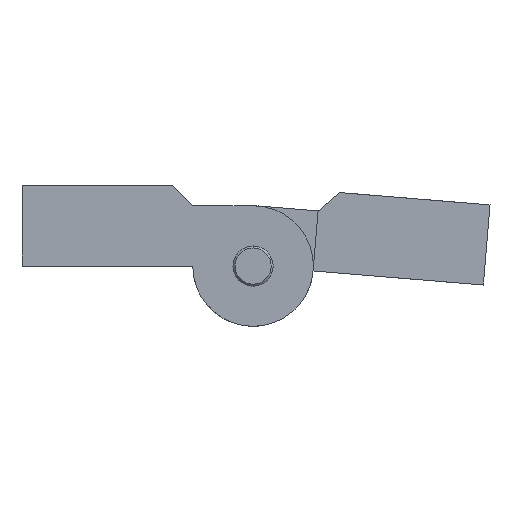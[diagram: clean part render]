
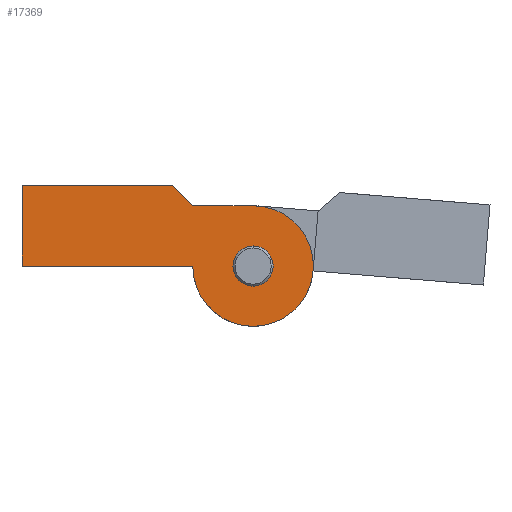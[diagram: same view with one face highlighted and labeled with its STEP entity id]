
A CAD part, front view. The second image highlights one B-rep face of the part: STEP entity #17369.
In plain terms, the highlighted planar face has unit normal (0, -1, 0).
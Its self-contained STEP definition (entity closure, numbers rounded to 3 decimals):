
#100 = DIRECTION ( 'NONE',  ( 0., 1., 0. ) ) ;
#311 = EDGE_LOOP ( 'NONE', ( #27034, #25543, #1429, #6005, #13994, #7374, #33645 ) ) ;
#563 = DIRECTION ( 'NONE',  ( 0., 1., 0. ) ) ;
#678 = VERTEX_POINT ( 'NONE', #5207 ) ;
#1429 = ORIENTED_EDGE ( 'NONE', *, *, #33772, .F. ) ;
#1987 = CARTESIAN_POINT ( 'NONE',  ( -11.5, 0., 0. ) ) ;
#3493 = CARTESIAN_POINT ( 'NONE',  ( 0., 0., 3. ) ) ;
#3612 = DIRECTION ( 'NONE',  ( -1., 0., 0. ) ) ;
#4680 = CARTESIAN_POINT ( 'NONE',  ( 0., 0., 1. ) ) ;
#4803 = DIRECTION ( 'NONE',  ( -1., 0., 0. ) ) ;
#4970 = EDGE_CURVE ( 'NONE', #15293, #31078, #15086, .T. ) ;
#5189 = DIRECTION ( 'NONE',  ( 1., 0., 0. ) ) ;
#5207 = CARTESIAN_POINT ( 'NONE',  ( 0., 0., -3. ) ) ;
#5719 = AXIS2_PLACEMENT_3D ( 'NONE', #26030, #12958, #18384 ) ;
#6005 = ORIENTED_EDGE ( 'NONE', *, *, #8729, .F. ) ;
#6045 = CIRCLE ( 'NONE', #27400, 1. ) ;
#7374 = ORIENTED_EDGE ( 'NONE', *, *, #9307, .F. ) ;
#7498 = LINE ( 'NONE', #32033, #24716 ) ;
#8353 = CARTESIAN_POINT ( 'NONE',  ( -3., 0., 3. ) ) ;
#8729 = EDGE_CURVE ( 'NONE', #26565, #29946, #7498, .T. ) ;
#8844 = VECTOR ( 'NONE', #5189, 1000. ) ;
#9273 = CARTESIAN_POINT ( 'NONE',  ( 0., 0., 0. ) ) ;
#9307 = EDGE_CURVE ( 'NONE', #678, #20363, #34392, .T. ) ;
#9415 = DIRECTION ( 'NONE',  ( 0., 0., 1. ) ) ;
#12185 = VECTOR ( 'NONE', #3612, 1000. ) ;
#12290 = EDGE_CURVE ( 'NONE', #14000, #18303, #19250, .T. ) ;
#12958 = DIRECTION ( 'NONE',  ( 0., 1., 0. ) ) ;
#13994 = ORIENTED_EDGE ( 'NONE', *, *, #15257, .F. ) ;
#14000 = VERTEX_POINT ( 'NONE', #24127 ) ;
#14117 = CARTESIAN_POINT ( 'NONE',  ( 0., 0., -1. ) ) ;
#14783 = LINE ( 'NONE', #1987, #36435 ) ;
#15086 = CIRCLE ( 'NONE', #17799, 1. ) ;
#15209 = PLANE ( 'NONE',  #19072 ) ;
#15257 = EDGE_CURVE ( 'NONE', #20363, #26565, #14783, .T. ) ;
#15293 = VERTEX_POINT ( 'NONE', #4680 ) ;
#15563 = CARTESIAN_POINT ( 'NONE',  ( -3., 0., 0. ) ) ;
#15811 = CARTESIAN_POINT ( 'NONE',  ( -11.5, 0., 0. ) ) ;
#16307 = CARTESIAN_POINT ( 'NONE',  ( 0., 0., 0. ) ) ;
#16680 = CARTESIAN_POINT ( 'NONE',  ( -11.5, 0., 4. ) ) ;
#17055 = CARTESIAN_POINT ( 'NONE',  ( 0., 0., 0. ) ) ;
#17369 = ADVANCED_FACE ( 'NONE', ( #21787, #23967 ), #15209, .F. ) ;
#17799 = AXIS2_PLACEMENT_3D ( 'NONE', #17055, #100, #19775 ) ;
#18303 = VERTEX_POINT ( 'NONE', #8353 ) ;
#18384 = DIRECTION ( 'NONE',  ( 0., 0., 1. ) ) ;
#19072 = AXIS2_PLACEMENT_3D ( 'NONE', #34957, #26303, #9415 ) ;
#19141 = DIRECTION ( 'NONE',  ( 0., 1., 0. ) ) ;
#19250 = LINE ( 'NONE', #3493, #12185 ) ;
#19264 = DIRECTION ( 'NONE',  ( 0., 0., 1. ) ) ;
#19775 = DIRECTION ( 'NONE',  ( 0., 0., 1. ) ) ;
#20244 = EDGE_LOOP ( 'NONE', ( #33295, #28767 ) ) ;
#20363 = VERTEX_POINT ( 'NONE', #15563 ) ;
#20445 = DIRECTION ( 'NONE',  ( 0., 0., 1. ) ) ;
#20968 = CARTESIAN_POINT ( 'NONE',  ( -4., 0., 4. ) ) ;
#21787 = FACE_BOUND ( 'NONE', #20244, .T. ) ;
#22112 = CARTESIAN_POINT ( 'NONE',  ( -3., 0., 3. ) ) ;
#23967 = FACE_OUTER_BOUND ( 'NONE', #311, .T. ) ;
#24127 = CARTESIAN_POINT ( 'NONE',  ( 0., 0., 3. ) ) ;
#24716 = VECTOR ( 'NONE', #20445, 1000. ) ;
#24742 = VERTEX_POINT ( 'NONE', #20968 ) ;
#25543 = ORIENTED_EDGE ( 'NONE', *, *, #29901, .T. ) ;
#25794 = AXIS2_PLACEMENT_3D ( 'NONE', #16307, #19141, #19264 ) ;
#26030 = CARTESIAN_POINT ( 'NONE',  ( 0., 0., 0. ) ) ;
#26303 = DIRECTION ( 'NONE',  ( 0., 1., 0. ) ) ;
#26565 = VERTEX_POINT ( 'NONE', #15811 ) ;
#26830 = EDGE_CURVE ( 'NONE', #14000, #678, #34412, .T. ) ;
#27034 = ORIENTED_EDGE ( 'NONE', *, *, #12290, .T. ) ;
#27400 = AXIS2_PLACEMENT_3D ( 'NONE', #9273, #563, #34575 ) ;
#28016 = CARTESIAN_POINT ( 'NONE',  ( 0., 0., 4. ) ) ;
#28042 = DIRECTION ( 'NONE',  ( -0.707, 0., 0.707 ) ) ;
#28767 = ORIENTED_EDGE ( 'NONE', *, *, #4970, .T. ) ;
#29901 = EDGE_CURVE ( 'NONE', #18303, #24742, #31221, .T. ) ;
#29946 = VERTEX_POINT ( 'NONE', #16680 ) ;
#31078 = VERTEX_POINT ( 'NONE', #14117 ) ;
#31221 = LINE ( 'NONE', #22112, #35666 ) ;
#31244 = EDGE_CURVE ( 'NONE', #31078, #15293, #6045, .T. ) ;
#32033 = CARTESIAN_POINT ( 'NONE',  ( -11.5, 0., 4. ) ) ;
#33295 = ORIENTED_EDGE ( 'NONE', *, *, #31244, .T. ) ;
#33645 = ORIENTED_EDGE ( 'NONE', *, *, #26830, .F. ) ;
#33772 = EDGE_CURVE ( 'NONE', #29946, #24742, #35775, .T. ) ;
#34392 = CIRCLE ( 'NONE', #5719, 3. ) ;
#34412 = CIRCLE ( 'NONE', #25794, 3. ) ;
#34575 = DIRECTION ( 'NONE',  ( 0., 0., 1. ) ) ;
#34957 = CARTESIAN_POINT ( 'NONE',  ( 0., 0., 0. ) ) ;
#35666 = VECTOR ( 'NONE', #28042, 1000. ) ;
#35775 = LINE ( 'NONE', #28016, #8844 ) ;
#36435 = VECTOR ( 'NONE', #4803, 1000. ) ;
